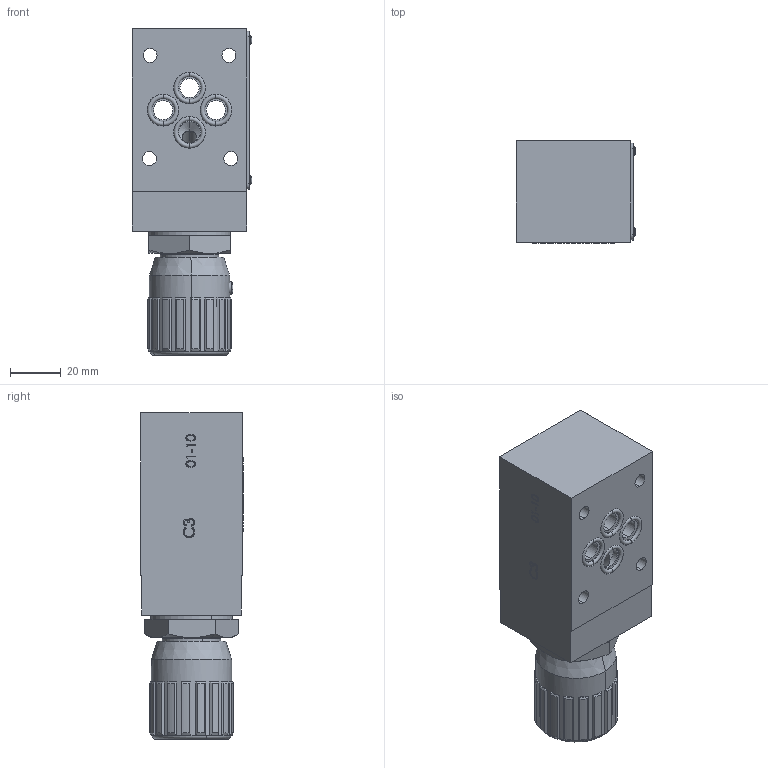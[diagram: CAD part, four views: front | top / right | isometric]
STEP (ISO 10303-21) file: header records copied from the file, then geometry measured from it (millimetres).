
FILE_DESCRIPTION (( 'STEP AP214' ), '1' );
FILE_NAME ('FT357-5-B-03.STEP', '2014-06-17T05:17:46', ( '' ), ( '' ), 'SwSTEP 2.0', 'SolidWorks 2014', '' );
FILE_SCHEMA (( 'AUTOMOTIVE_DESIGN' ));
Length unit declared in the file: millimetre
Products named in the file (21): AnelloFermoFT1251_2-01-12; 257-6-009000-38; 267-5-002001-38; 267-5-008001-38; 267-5-017000-38; 267-5-018000-38; OR2018; BK2018; ViteM3_Semplice; 357-5-AB101000; RivettoTarga; 357-5-B015000; 357-5-B001000; VolantinoFT257-5_38_Tipo38; GranoFT257_5-38; FT357-5-B-03; DiscoFascetta257_5-38; CappuccioFT257-5_38_Tipo38; OR2037; OR2068; OR132
Assembly tree (26 placements, depth 2):
  FT357-5-B-03
    357-5-B001000
    357-5-B015000
    RivettoTarga  x4
    357-5-AB101000
    ViteM3_Semplice
    BK2018
    OR2018
    267-5-018000-38
    267-5-017000-38
    267-5-008001-38
    267-5-002001-38
    257-6-009000-38
    AnelloFermoFT1251_2-01-12
    OR132
    OR2068
    OR2037  x4
    CappuccioFT257-5_38_Tipo38
    DiscoFascetta257_5-38
    GranoFT257_5-38
    VolantinoFT257-5_38_Tipo38
Bounding box: 46.96 x 40.38 x 128.3 mm (x, y, z)
Volume: 161332.2 mm3; surface area: 60974.5 mm2
Topology: 26 solids, 26 shells, 2170 faces, 5523 edges, 3590 vertices
Faces by surface type: plane 1214, bspline 394, cylinder 311, cone 191, torus 58, sphere 2
Entity records: 104252 total; most frequent: CARTESIAN_POINT 39213, ORIENTED_EDGE 10822, DIRECTION 8742, EDGE_CURVE 5411, LINE 3600, VECTOR 3600, VERTEX_POINT 3536, AXIS2_PLACEMENT_3D 2571
